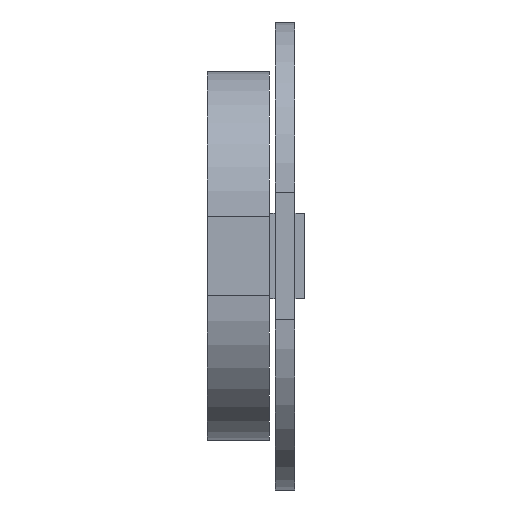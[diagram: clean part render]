
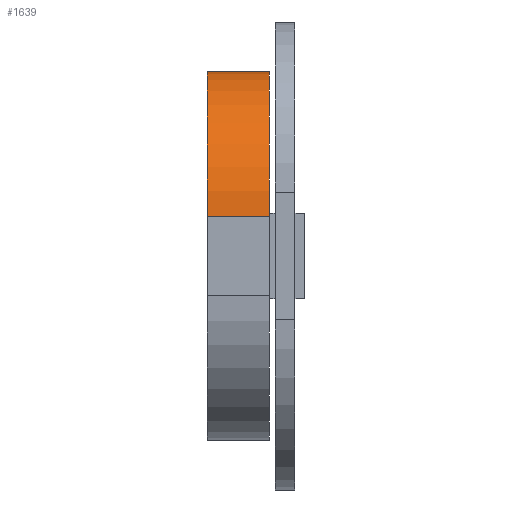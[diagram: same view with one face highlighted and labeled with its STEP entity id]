
A CAD part, front view. The second image highlights one B-rep face of the part: STEP entity #1639.
In plain terms, the highlighted cylindrical face has radius 5.1 mm (diameter 10.2 mm), a partial arc.
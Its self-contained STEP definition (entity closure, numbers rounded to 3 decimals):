
#974 = PLANE('',#975);
#975 = AXIS2_PLACEMENT_3D('',#976,#977,#978);
#976 = CARTESIAN_POINT('',(-40.9,-19.,6.5));
#977 = DIRECTION('',(-1.,0.,0.));
#978 = DIRECTION('',(0.,0.,1.));
#1316 = VERTEX_POINT('',#1317);
#1317 = CARTESIAN_POINT('',(-40.9,-13.9,6.5));
#1333 = PLANE('',#1334);
#1334 = AXIS2_PLACEMENT_3D('',#1335,#1336,#1337);
#1335 = CARTESIAN_POINT('',(-40.9,-19.,6.5));
#1336 = DIRECTION('',(0.,-0.,-1.));
#1337 = DIRECTION('',(1.,0.,0.));
#1345 = EDGE_CURVE('',#1316,#1346,#1348,.T.);
#1346 = VERTEX_POINT('',#1347);
#1347 = CARTESIAN_POINT('',(-40.9,-19.,1.4));
#1348 = SURFACE_CURVE('',#1349,(#1354,#1365),.PCURVE_S1.);
#1349 = CIRCLE('',#1350,5.1);
#1350 = AXIS2_PLACEMENT_3D('',#1351,#1352,#1353);
#1351 = CARTESIAN_POINT('',(-40.9,-13.9,1.4));
#1352 = DIRECTION('',(1.,0.,0.));
#1353 = DIRECTION('',(0.,-1.,0.));
#1354 = PCURVE('',#974,#1355);
#1355 = DEFINITIONAL_REPRESENTATION('',(#1356),#1364);
#1356 = ( BOUNDED_CURVE() B_SPLINE_CURVE(2,(#1357,#1358,#1359,#1360,
#1361,#1362,#1363),.UNSPECIFIED.,.T.,.F.) B_SPLINE_CURVE_WITH_KNOTS((1,2
    ,2,2,2,1),(-2.094,0.,2.094,4.189,
6.283,8.378),.UNSPECIFIED.) CURVE() 
GEOMETRIC_REPRESENTATION_ITEM() RATIONAL_B_SPLINE_CURVE((1.,0.5,1.,0.5,
1.,0.5,1.)) REPRESENTATION_ITEM('') );
#1357 = CARTESIAN_POINT('',(-5.1,0.));
#1358 = CARTESIAN_POINT('',(-13.933,0.));
#1359 = CARTESIAN_POINT('',(-9.517,7.65));
#1360 = CARTESIAN_POINT('',(-5.1,15.3));
#1361 = CARTESIAN_POINT('',(-0.683,7.65));
#1362 = CARTESIAN_POINT('',(3.733,0.));
#1363 = CARTESIAN_POINT('',(-5.1,0.));
#1364 = ( GEOMETRIC_REPRESENTATION_CONTEXT(2) 
PARAMETRIC_REPRESENTATION_CONTEXT() REPRESENTATION_CONTEXT('2D SPACE',''
  ) );
#1365 = PCURVE('',#1366,#1371);
#1366 = CYLINDRICAL_SURFACE('',#1367,5.1);
#1367 = AXIS2_PLACEMENT_3D('',#1368,#1369,#1370);
#1368 = CARTESIAN_POINT('',(-40.9,-13.9,1.4));
#1369 = DIRECTION('',(-1.,-0.,0.));
#1370 = DIRECTION('',(0.,0.,1.));
#1371 = DEFINITIONAL_REPRESENTATION('',(#1372),#1376);
#1372 = LINE('',#1373,#1374);
#1373 = CARTESIAN_POINT('',(10.996,0.));
#1374 = VECTOR('',#1375,1.);
#1375 = DIRECTION('',(-1.,0.));
#1376 = ( GEOMETRIC_REPRESENTATION_CONTEXT(2) 
PARAMETRIC_REPRESENTATION_CONTEXT() REPRESENTATION_CONTEXT('2D SPACE',''
  ) );
#1394 = PLANE('',#1395);
#1395 = AXIS2_PLACEMENT_3D('',#1396,#1397,#1398);
#1396 = CARTESIAN_POINT('',(-40.9,-19.,6.5));
#1397 = DIRECTION('',(0.,1.,0.));
#1398 = DIRECTION('',(1.,0.,0.));
#1568 = VERTEX_POINT('',#1569);
#1569 = CARTESIAN_POINT('',(-43.1,-13.9,6.5));
#1585 = PLANE('',#1586);
#1586 = AXIS2_PLACEMENT_3D('',#1587,#1588,#1589);
#1587 = CARTESIAN_POINT('',(-43.1,-40.,-25.));
#1588 = DIRECTION('',(1.,0.,0.));
#1589 = DIRECTION('',(0.,0.,1.));
#1597 = EDGE_CURVE('',#1316,#1568,#1598,.T.);
#1598 = SURFACE_CURVE('',#1599,(#1603,#1610),.PCURVE_S1.);
#1599 = LINE('',#1600,#1601);
#1600 = CARTESIAN_POINT('',(-40.9,-13.9,6.5));
#1601 = VECTOR('',#1602,1.);
#1602 = DIRECTION('',(-1.,-0.,0.));
#1603 = PCURVE('',#1333,#1604);
#1604 = DEFINITIONAL_REPRESENTATION('',(#1605),#1609);
#1605 = LINE('',#1606,#1607);
#1606 = CARTESIAN_POINT('',(0.,-5.1));
#1607 = VECTOR('',#1608,1.);
#1608 = DIRECTION('',(-1.,0.));
#1609 = ( GEOMETRIC_REPRESENTATION_CONTEXT(2) 
PARAMETRIC_REPRESENTATION_CONTEXT() REPRESENTATION_CONTEXT('2D SPACE',''
  ) );
#1610 = PCURVE('',#1366,#1611);
#1611 = DEFINITIONAL_REPRESENTATION('',(#1612),#1616);
#1612 = LINE('',#1613,#1614);
#1613 = CARTESIAN_POINT('',(6.283,0.));
#1614 = VECTOR('',#1615,1.);
#1615 = DIRECTION('',(-0.,1.));
#1616 = ( GEOMETRIC_REPRESENTATION_CONTEXT(2) 
PARAMETRIC_REPRESENTATION_CONTEXT() REPRESENTATION_CONTEXT('2D SPACE',''
  ) );
#1639 = ADVANCED_FACE('',(#1640),#1366,.T.);
#1640 = FACE_BOUND('',#1641,.T.);
#1641 = EDGE_LOOP('',(#1642,#1670,#1691,#1692));
#1642 = ORIENTED_EDGE('',*,*,#1643,.F.);
#1643 = EDGE_CURVE('',#1644,#1568,#1646,.T.);
#1644 = VERTEX_POINT('',#1645);
#1645 = CARTESIAN_POINT('',(-43.1,-19.,1.4));
#1646 = SURFACE_CURVE('',#1647,(#1652,#1659),.PCURVE_S1.);
#1647 = CIRCLE('',#1648,5.1);
#1648 = AXIS2_PLACEMENT_3D('',#1649,#1650,#1651);
#1649 = CARTESIAN_POINT('',(-43.1,-13.9,1.4));
#1650 = DIRECTION('',(-1.,-0.,0.));
#1651 = DIRECTION('',(0.,0.,1.));
#1652 = PCURVE('',#1366,#1653);
#1653 = DEFINITIONAL_REPRESENTATION('',(#1654),#1658);
#1654 = LINE('',#1655,#1656);
#1655 = CARTESIAN_POINT('',(0.,2.2));
#1656 = VECTOR('',#1657,1.);
#1657 = DIRECTION('',(1.,-0.));
#1658 = ( GEOMETRIC_REPRESENTATION_CONTEXT(2) 
PARAMETRIC_REPRESENTATION_CONTEXT() REPRESENTATION_CONTEXT('2D SPACE',''
  ) );
#1659 = PCURVE('',#1585,#1660);
#1660 = DEFINITIONAL_REPRESENTATION('',(#1661),#1669);
#1661 = ( BOUNDED_CURVE() B_SPLINE_CURVE(2,(#1662,#1663,#1664,#1665,
#1666,#1667,#1668),.UNSPECIFIED.,.T.,.F.) B_SPLINE_CURVE_WITH_KNOTS((1,2
    ,2,2,2,1),(-2.094,0.,2.094,4.189,
6.283,8.378),.UNSPECIFIED.) CURVE() 
GEOMETRIC_REPRESENTATION_ITEM() RATIONAL_B_SPLINE_CURVE((1.,0.5,1.,0.5,
1.,0.5,1.)) REPRESENTATION_ITEM('') );
#1662 = CARTESIAN_POINT('',(31.5,-26.1));
#1663 = CARTESIAN_POINT('',(31.5,-34.933));
#1664 = CARTESIAN_POINT('',(23.85,-30.517));
#1665 = CARTESIAN_POINT('',(16.2,-26.1));
#1666 = CARTESIAN_POINT('',(23.85,-21.683));
#1667 = CARTESIAN_POINT('',(31.5,-17.267));
#1668 = CARTESIAN_POINT('',(31.5,-26.1));
#1669 = ( GEOMETRIC_REPRESENTATION_CONTEXT(2) 
PARAMETRIC_REPRESENTATION_CONTEXT() REPRESENTATION_CONTEXT('2D SPACE',''
  ) );
#1670 = ORIENTED_EDGE('',*,*,#1671,.F.);
#1671 = EDGE_CURVE('',#1346,#1644,#1672,.T.);
#1672 = SURFACE_CURVE('',#1673,(#1677,#1684),.PCURVE_S1.);
#1673 = LINE('',#1674,#1675);
#1674 = CARTESIAN_POINT('',(-40.9,-19.,1.4));
#1675 = VECTOR('',#1676,1.);
#1676 = DIRECTION('',(-1.,-0.,0.));
#1677 = PCURVE('',#1366,#1678);
#1678 = DEFINITIONAL_REPRESENTATION('',(#1679),#1683);
#1679 = LINE('',#1680,#1681);
#1680 = CARTESIAN_POINT('',(4.712,0.));
#1681 = VECTOR('',#1682,1.);
#1682 = DIRECTION('',(-0.,1.));
#1683 = ( GEOMETRIC_REPRESENTATION_CONTEXT(2) 
PARAMETRIC_REPRESENTATION_CONTEXT() REPRESENTATION_CONTEXT('2D SPACE',''
  ) );
#1684 = PCURVE('',#1394,#1685);
#1685 = DEFINITIONAL_REPRESENTATION('',(#1686),#1690);
#1686 = LINE('',#1687,#1688);
#1687 = CARTESIAN_POINT('',(0.,5.1));
#1688 = VECTOR('',#1689,1.);
#1689 = DIRECTION('',(-1.,0.));
#1690 = ( GEOMETRIC_REPRESENTATION_CONTEXT(2) 
PARAMETRIC_REPRESENTATION_CONTEXT() REPRESENTATION_CONTEXT('2D SPACE',''
  ) );
#1691 = ORIENTED_EDGE('',*,*,#1345,.F.);
#1692 = ORIENTED_EDGE('',*,*,#1597,.T.);
